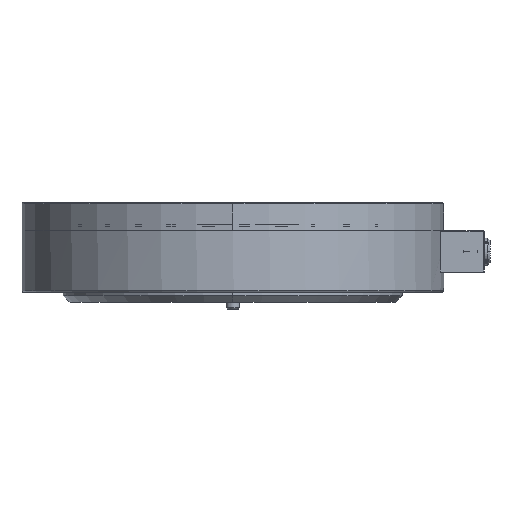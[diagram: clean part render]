
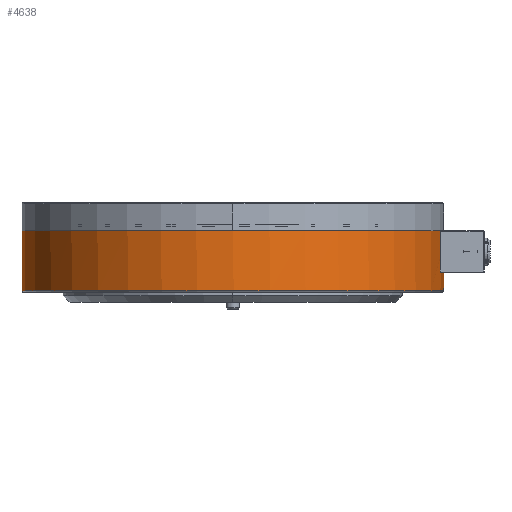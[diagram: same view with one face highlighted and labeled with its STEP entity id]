
A CAD part, left-side view. The second image highlights one B-rep face of the part: STEP entity #4638.
In plain terms, the highlighted cylindrical face has radius 125 mm (diameter 250 mm), a partial arc.
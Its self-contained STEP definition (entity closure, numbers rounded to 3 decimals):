
#19=CARTESIAN_POINT('',(0.,-125.,9.));
#21=DIRECTION('',(0.,0.,-1.));
#22=VECTOR('',#21,35.5);
#23=CARTESIAN_POINT('',(0.,125.,16.5));
#24=LINE('',#23,#22);
#176=CARTESIAN_POINT('',(0.,0.,-19.));
#177=DIRECTION('',(0.,0.,1.));
#178=DIRECTION('',(0.,1.,0.));
#179=AXIS2_PLACEMENT_3D('',#176,#177,#178);
#181=CARTESIAN_POINT('',(0.,0.,-19.));
#182=DIRECTION('',(0.,0.,1.));
#183=DIRECTION('',(-0.008,1.,0.));
#184=AXIS2_PLACEMENT_3D('',#181,#182,#183);
#191=DIRECTION('',(0.,0.,-1.));
#192=VECTOR('',#191,7.5);
#193=CARTESIAN_POINT('',(0.,-125.,16.5));
#194=LINE('',#193,#192);
#195=CARTESIAN_POINT('',(0.,-125.,9.));
#196=CARTESIAN_POINT('',(-0.443,-125.,9.));
#197=CARTESIAN_POINT('',(-1.296,-124.995,8.888));
#198=CARTESIAN_POINT('',(-2.535,-124.976,8.377));
#199=CARTESIAN_POINT('',(-3.566,-124.95,7.585));
#200=CARTESIAN_POINT('',(-4.374,-124.924,6.54));
#201=CARTESIAN_POINT('',(-4.882,-124.905,5.319));
#202=CARTESIAN_POINT('',(-5.,-124.9,4.452));
#203=CARTESIAN_POINT('',(-5.,-124.9,4.));
#205=CARTESIAN_POINT('',(-5.,-124.9,4.));
#206=CARTESIAN_POINT('',(-5.,-124.9,3.572));
#207=CARTESIAN_POINT('',(-4.895,-124.904,2.737));
#208=CARTESIAN_POINT('',(-4.399,-124.923,1.495));
#209=CARTESIAN_POINT('',(-3.567,-124.95,
0.418));
#210=CARTESIAN_POINT('',(-2.572,-124.975,
-0.353));
#211=CARTESIAN_POINT('',(-1.322,-124.995,
-0.884));
#212=CARTESIAN_POINT('',(-0.454,-125.,-1.));
#213=CARTESIAN_POINT('',(0.,-125.,-1.));
#215=DIRECTION('',(0.,0.,-1.));
#216=VECTOR('',#215,18.);
#217=CARTESIAN_POINT('',(0.,-125.,-1.));
#218=LINE('',#217,#216);
#219=CARTESIAN_POINT('',(-14.5,-124.156,4.));
#220=CARTESIAN_POINT('',(-14.5,-124.156,4.302));
#221=CARTESIAN_POINT('',(-14.604,-124.144,4.867));
#222=CARTESIAN_POINT('',(-15.034,-124.093,5.625));
#223=CARTESIAN_POINT('',(-15.704,-124.01,6.196));
#224=CARTESIAN_POINT('',(-16.526,-123.904,6.508));
#225=CARTESIAN_POINT('',(-17.431,-123.78,6.516));
#226=CARTESIAN_POINT('',(-18.263,-123.66,6.217));
#227=CARTESIAN_POINT('',(-18.954,-123.555,5.643));
#228=CARTESIAN_POINT('',(-19.397,-123.486,4.869));
#229=CARTESIAN_POINT('',(-19.5,-123.47,4.303));
#230=CARTESIAN_POINT('',(-19.5,-123.47,4.));
#232=CARTESIAN_POINT('',(-19.5,-123.47,4.));
#233=CARTESIAN_POINT('',(-19.5,-123.47,3.699));
#234=CARTESIAN_POINT('',(-19.397,-123.486,3.137));
#235=CARTESIAN_POINT('',(-18.969,-123.553,2.379));
#236=CARTESIAN_POINT('',(-18.301,-123.654,1.806));
#237=CARTESIAN_POINT('',(-17.477,-123.773,1.493));
#238=CARTESIAN_POINT('',(-16.57,-123.898,1.484));
#239=CARTESIAN_POINT('',(-15.739,-124.006,1.782));
#240=CARTESIAN_POINT('',(-15.048,-124.091,2.355));
#241=CARTESIAN_POINT('',(-14.604,-124.144,3.129));
#242=CARTESIAN_POINT('',(-14.5,-124.156,3.696));
#243=CARTESIAN_POINT('',(-14.5,-124.156,4.));
#250=CARTESIAN_POINT('',(0.,0.,16.5));
#251=DIRECTION('',(0.,0.,-1.));
#252=DIRECTION('',(0.,-1.,0.));
#253=AXIS2_PLACEMENT_3D('',#250,#251,#252);
#3495=CARTESIAN_POINT('',(0.,125.,-19.));
#3497=VERTEX_POINT('',#3495);
#3498=CARTESIAN_POINT('',(0.,-125.,-19.));
#3499=VERTEX_POINT('',#3498);
#3500=CARTESIAN_POINT('',(0.,-125.,-1.));
#3501=VERTEX_POINT('',#3500);
#3503=VERTEX_POINT('',#19);
#3504=CARTESIAN_POINT('',(0.,-125.,16.5));
#3505=VERTEX_POINT('',#3504);
#3506=CARTESIAN_POINT('',(0.,125.,16.5));
#3507=VERTEX_POINT('',#3506);
#4183=VERTEX_POINT('',#205);
#4184=CARTESIAN_POINT('',(-1.013,124.996,-19.));
#4185=VERTEX_POINT('',#4184);
#4186=VERTEX_POINT('',#219);
#4187=VERTEX_POINT('',#230);
#4614=CARTESIAN_POINT('',(0.,0.,-20.));
#4615=DIRECTION('',(0.,0.,1.));
#4616=DIRECTION('',(0.,-1.,0.));
#4617=AXIS2_PLACEMENT_3D('',#4614,#4615,#4616);
#4618=CYLINDRICAL_SURFACE('',#4617,125.);
#4619=ORIENTED_EDGE('',*,*,#4608,.F.);
#4620=ORIENTED_EDGE('',*,*,#4606,.F.);
#4621=ORIENTED_EDGE('',*,*,#4501,.F.);
#4623=ORIENTED_EDGE('',*,*,#4622,.F.);
#4624=ORIENTED_EDGE('',*,*,#4497,.T.);
#4626=ORIENTED_EDGE('',*,*,#4625,.T.);
#4628=ORIENTED_EDGE('',*,*,#4627,.T.);
#4629=ORIENTED_EDGE('',*,*,#4491,.T.);
#4630=EDGE_LOOP('',(#4619,#4620,#4621,#4623,#4624,#4626,#4628,#4629));
#4631=FACE_OUTER_BOUND('',#4630,.F.);
#4633=ORIENTED_EDGE('',*,*,#4632,.T.);
#4635=ORIENTED_EDGE('',*,*,#4634,.T.);
#4636=EDGE_LOOP('',(#4633,#4635));
#4637=FACE_BOUND('',#4636,.F.);
#4638=ADVANCED_FACE('',(#4631,#4637),#4618,.T.);
#180=CIRCLE('',#179,125.);
#185=CIRCLE('',#184,125.);
#204=B_SPLINE_CURVE_WITH_KNOTS('',3,(#195,#196,#197,#198,#199,#200,#201,#202,
#203),.UNSPECIFIED.,.F.,.F.,(4,1,1,1,1,1,4),(0.,0.167,
0.333,0.5,0.667,0.833,1.),
.UNSPECIFIED.);
#214=B_SPLINE_CURVE_WITH_KNOTS('',3,(#205,#206,#207,#208,#209,#210,#211,#212,
#213),.UNSPECIFIED.,.F.,.F.,(4,1,1,1,1,1,4),(0.,0.167,
0.333,0.5,0.667,0.833,1.),
.UNSPECIFIED.);
#231=B_SPLINE_CURVE_WITH_KNOTS('',3,(#219,#220,#221,#222,#223,#224,#225,#226,
#227,#228,#229,#230),.UNSPECIFIED.,.F.,.F.,(4,1,1,1,1,1,1,1,1,4),(0.,
0.111,0.222,0.333,0.444,
0.556,0.667,0.778,0.889,1.),
.UNSPECIFIED.);
#244=B_SPLINE_CURVE_WITH_KNOTS('',3,(#232,#233,#234,#235,#236,#237,#238,#239,
#240,#241,#242,#243),.UNSPECIFIED.,.F.,.F.,(4,1,1,1,1,1,1,1,1,4),(0.,
0.111,0.222,0.333,0.444,
0.556,0.667,0.778,0.889,1.),
.UNSPECIFIED.);
#254=CIRCLE('',#253,125.);
#4491=EDGE_CURVE('',#3501,#3499,#218,.T.);
#4497=EDGE_CURVE('',#3505,#3503,#194,.T.);
#4501=EDGE_CURVE('',#3507,#3497,#24,.T.);
#4606=EDGE_CURVE('',#3497,#4185,#180,.T.);
#4608=EDGE_CURVE('',#4185,#3499,#185,.T.);
#4622=EDGE_CURVE('',#3505,#3507,#254,.T.);
#4625=EDGE_CURVE('',#3503,#4183,#204,.T.);
#4627=EDGE_CURVE('',#4183,#3501,#214,.T.);
#4632=EDGE_CURVE('',#4186,#4187,#231,.T.);
#4634=EDGE_CURVE('',#4187,#4186,#244,.T.);
